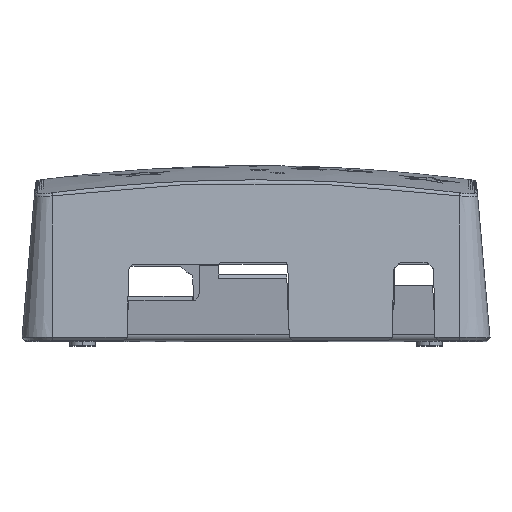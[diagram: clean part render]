
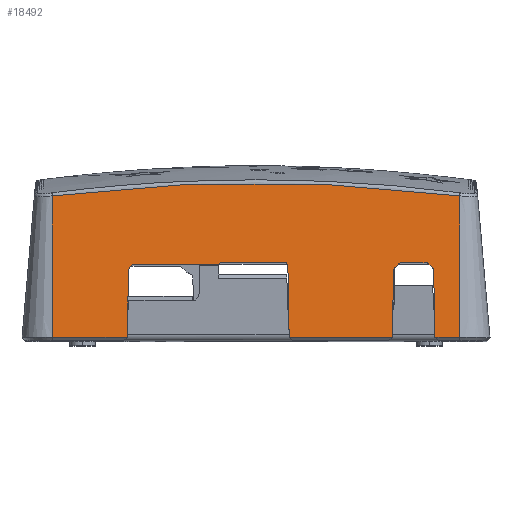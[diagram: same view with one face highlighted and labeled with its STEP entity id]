
A CAD part, top view. The second image highlights one B-rep face of the part: STEP entity #18492.
In plain terms, the highlighted planar face has unit normal (0, 0.087, 0.996).
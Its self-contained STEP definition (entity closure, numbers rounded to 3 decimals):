
#1996=DIRECTION('',(1.,0.,0.));
#1997=VECTOR('',#1996,13.4);
#1998=CARTESIAN_POINT('',(-7.3,0.5,49.206));
#1999=LINE('',#1998,#1997);
#2041=CARTESIAN_POINT('',(-27.6,-1.492,
49.381));
#2042=CARTESIAN_POINT('',(-27.591,-0.969,
49.335));
#2043=CARTESIAN_POINT('',(-27.186,-0.314,
49.277));
#2044=CARTESIAN_POINT('',(-26.525,0.08,49.243));
#2045=CARTESIAN_POINT('',(-26.,0.08,49.243));
#2055=DIRECTION('',(-0.017,-0.996,0.087));
#2056=VECTOR('',#2055,14.405);
#2057=CARTESIAN_POINT('',(29.75,-1.403,49.373));
#2058=LINE('',#2057,#2056);
#2059=DIRECTION('',(-1.,0.,0.));
#2060=VECTOR('',#2059,17.996);
#2061=CARTESIAN_POINT('',(-8.004,0.08,
49.243));
#2062=LINE('',#2061,#2060);
#2063=DIRECTION('',(-0.017,-0.996,0.087));
#2064=VECTOR('',#2063,14.316);
#2065=CARTESIAN_POINT('',(-27.6,-1.492,
49.381));
#2066=LINE('',#2065,#2064);
#2067=CARTESIAN_POINT('',(0.,-327.249,77.881));
#2068=DIRECTION('',(0.,-0.087,-0.996));
#2069=DIRECTION('',(-0.127,0.988,-0.086));
#2070=AXIS2_PLACEMENT_3D('',#2067,#2068,#2069);
#2072=DIRECTION('',(1.,0.,0.));
#2073=VECTOR('',#2072,5.374);
#2074=CARTESIAN_POINT('',(38.701,-15.751,50.629));
#2075=LINE('',#2074,#2073);
#2149=DIRECTION('',(0.017,-0.996,0.087));
#2150=VECTOR('',#2149,14.403);
#2151=CARTESIAN_POINT('',(38.45,-1.405,49.373));
#2152=LINE('',#2151,#2150);
#2161=CARTESIAN_POINT('',(38.099,-0.576,
49.3));
#2162=CARTESIAN_POINT('',(38.173,-0.65,
49.307));
#2163=CARTESIAN_POINT('',(38.297,-0.811,
49.321));
#2164=CARTESIAN_POINT('',(38.419,-1.101,49.346));
#2165=CARTESIAN_POINT('',(38.448,-1.301,49.364));
#2166=CARTESIAN_POINT('',(38.45,-1.405,49.373));
#2168=DIRECTION('',(0.706,-0.706,0.062));
#2169=VECTOR('',#2168,0.955);
#2170=CARTESIAN_POINT('',(37.424,0.099,49.241));
#2171=LINE('',#2170,#2169);
#2180=CARTESIAN_POINT('',(36.576,0.45,49.211));
#2181=CARTESIAN_POINT('',(36.907,0.45,49.211));
#2182=CARTESIAN_POINT('',(37.19,0.333,49.221));
#2183=CARTESIAN_POINT('',(37.424,0.099,49.241));
#2185=DIRECTION('',(1.,0.,0.));
#2186=VECTOR('',#2185,4.951);
#2187=CARTESIAN_POINT('',(31.624,0.45,49.211));
#2188=LINE('',#2187,#2186);
#2197=CARTESIAN_POINT('',(30.776,0.099,49.241));
#2198=CARTESIAN_POINT('',(31.01,0.333,49.221));
#2199=CARTESIAN_POINT('',(31.293,0.45,49.211));
#2200=CARTESIAN_POINT('',(31.624,0.45,49.211));
#2202=DIRECTION('',(0.706,0.706,-0.062));
#2203=VECTOR('',#2202,0.955);
#2204=CARTESIAN_POINT('',(30.101,-0.576,
49.3));
#2205=LINE('',#2204,#2203);
#2210=CARTESIAN_POINT('',(29.75,-1.403,49.373));
#2211=CARTESIAN_POINT('',(29.756,-1.08,49.345));
#2212=CARTESIAN_POINT('',(29.873,-0.805,
49.32));
#2213=CARTESIAN_POINT('',(30.101,-0.576,
49.3));
#2227=DIRECTION('',(1.,0.,0.));
#2228=VECTOR('',#2227,22.329);
#2229=CARTESIAN_POINT('',(7.17,-15.751,50.629));
#2230=LINE('',#2229,#2228);
#2263=DIRECTION('',(0.017,-0.996,0.087));
#2264=VECTOR('',#2263,15.524);
#2265=CARTESIAN_POINT('',(6.9,-0.288,
49.275));
#2266=LINE('',#2265,#2264);
#2284=CARTESIAN_POINT('',(6.1,0.5,49.206));
#2285=CARTESIAN_POINT('',(6.184,0.5,49.206));
#2286=CARTESIAN_POINT('',(6.344,0.475,49.208));
#2287=CARTESIAN_POINT('',(6.57,0.364,49.218));
#2288=CARTESIAN_POINT('',(6.754,0.184,49.234));
#2289=CARTESIAN_POINT('',(6.871,-0.044,
49.254));
#2290=CARTESIAN_POINT('',(6.899,-0.204,
49.268));
#2291=CARTESIAN_POINT('',(6.9,-0.288,
49.275));
#12477=DIRECTION('',(0.,0.996,-0.087));
#12478=VECTOR('',#12477,30.759);
#12479=CARTESIAN_POINT('',(44.075,-15.753,
50.628));
#12480=LINE('',#12479,#12478);
#12521=DIRECTION('',(0.,-0.996,0.087));
#12522=VECTOR('',#12521,30.758);
#12523=CARTESIAN_POINT('',(-44.075,14.889,
47.947));
#12524=LINE('',#12523,#12522);
#12859=DIRECTION('',(1.,0.,0.));
#12860=VECTOR('',#12859,16.226);
#12861=CARTESIAN_POINT('',(-44.075,-15.753,
50.628));
#12862=LINE('',#12861,#12860);
#14547=CARTESIAN_POINT('',(-8.004,0.08,
49.243));
#14548=CARTESIAN_POINT('',(-7.853,0.36,
49.219));
#14549=CARTESIAN_POINT('',(-7.619,0.5,49.206));
#14550=CARTESIAN_POINT('',(-7.3,0.5,49.206));
#15399=CARTESIAN_POINT('',(-7.3,0.5,49.206));
#15400=VERTEX_POINT('',#15399);
#15401=CARTESIAN_POINT('',(6.1,0.5,49.206));
#15402=VERTEX_POINT('',#15401);
#15409=CARTESIAN_POINT('',(-26.,0.08,49.243));
#15410=VERTEX_POINT('',#15409);
#15411=CARTESIAN_POINT('',(-8.004,0.08,
49.243));
#15412=VERTEX_POINT('',#15411);
#15413=VERTEX_POINT('',#2041);
#15414=CARTESIAN_POINT('',(38.701,-15.751,
50.629));
#15415=CARTESIAN_POINT('',(44.075,-15.753,
50.628));
#15416=VERTEX_POINT('',#15414);
#15417=VERTEX_POINT('',#15415);
#15418=CARTESIAN_POINT('',(38.45,-1.405,
49.373));
#15419=VERTEX_POINT('',#15418);
#15420=VERTEX_POINT('',#2161);
#15421=CARTESIAN_POINT('',(37.424,0.099,
49.241));
#15422=VERTEX_POINT('',#15421);
#15423=VERTEX_POINT('',#2180);
#15424=CARTESIAN_POINT('',(31.624,0.45,
49.211));
#15425=VERTEX_POINT('',#15424);
#15426=VERTEX_POINT('',#2197);
#15427=CARTESIAN_POINT('',(30.101,-0.576,
49.3));
#15428=VERTEX_POINT('',#15427);
#15429=VERTEX_POINT('',#2210);
#15430=CARTESIAN_POINT('',(29.499,-15.751,
50.629));
#15431=VERTEX_POINT('',#15430);
#15432=CARTESIAN_POINT('',(7.17,-15.751,
50.629));
#15433=VERTEX_POINT('',#15432);
#15434=CARTESIAN_POINT('',(6.9,-0.288,
49.275));
#15435=VERTEX_POINT('',#15434);
#15436=CARTESIAN_POINT('',(-27.849,-15.752,
50.629));
#15437=VERTEX_POINT('',#15436);
#15438=CARTESIAN_POINT('',(-44.075,-15.753,
50.628));
#15439=VERTEX_POINT('',#15438);
#15440=CARTESIAN_POINT('',(-44.075,14.889,
47.947));
#15441=VERTEX_POINT('',#15440);
#15442=CARTESIAN_POINT('',(44.075,14.889,47.947));
#15443=VERTEX_POINT('',#15442);
#18444=CARTESIAN_POINT('',(-47.411,0.,49.25));
#18445=DIRECTION('',(0.,0.087,0.996));
#18446=DIRECTION('',(1.,0.,0.));
#18447=AXIS2_PLACEMENT_3D('',#18444,#18445,#18446);
#18448=PLANE('',#18447);
#18450=ORIENTED_EDGE('',*,*,#18449,.F.);
#18452=ORIENTED_EDGE('',*,*,#18451,.F.);
#18454=ORIENTED_EDGE('',*,*,#18453,.F.);
#18456=ORIENTED_EDGE('',*,*,#18455,.F.);
#18458=ORIENTED_EDGE('',*,*,#18457,.F.);
#18460=ORIENTED_EDGE('',*,*,#18459,.F.);
#18462=ORIENTED_EDGE('',*,*,#18461,.F.);
#18464=ORIENTED_EDGE('',*,*,#18463,.F.);
#18466=ORIENTED_EDGE('',*,*,#18465,.F.);
#18468=ORIENTED_EDGE('',*,*,#18467,.T.);
#18470=ORIENTED_EDGE('',*,*,#18469,.F.);
#18472=ORIENTED_EDGE('',*,*,#18471,.F.);
#18474=ORIENTED_EDGE('',*,*,#18473,.F.);
#18475=ORIENTED_EDGE('',*,*,#18361,.F.);
#18477=ORIENTED_EDGE('',*,*,#18476,.F.);
#18478=ORIENTED_EDGE('',*,*,#18423,.T.);
#18479=ORIENTED_EDGE('',*,*,#18435,.F.);
#18481=ORIENTED_EDGE('',*,*,#18480,.T.);
#18483=ORIENTED_EDGE('',*,*,#18482,.F.);
#18485=ORIENTED_EDGE('',*,*,#18484,.F.);
#18487=ORIENTED_EDGE('',*,*,#18486,.T.);
#18489=ORIENTED_EDGE('',*,*,#18488,.F.);
#18490=EDGE_LOOP('',(#18450,#18452,#18454,#18456,#18458,#18460,#18462,#18464,
#18466,#18468,#18470,#18472,#18474,#18475,#18477,#18478,#18479,#18481,#18483,
#18485,#18487,#18489));
#18491=FACE_OUTER_BOUND('',#18490,.F.);
#2046=B_SPLINE_CURVE_WITH_KNOTS('',3,(#2041,#2042,#2043,#2044,#2045),
.UNSPECIFIED.,.F.,.F.,(4,1,4),(0.,0.5,1.),.UNSPECIFIED.);
#2071=CIRCLE('',#2070,346.261);
#2167=B_SPLINE_CURVE_WITH_KNOTS('',3,(#2161,#2162,#2163,#2164,#2165,#2166),
.UNSPECIFIED.,.F.,.F.,(4,1,1,4),(0.,0.333,0.667,1.),
.UNSPECIFIED.);
#2184=B_SPLINE_CURVE_WITH_KNOTS('',3,(#2180,#2181,#2182,#2183),.UNSPECIFIED.,
.F.,.F.,(4,4),(0.,1.),.UNSPECIFIED.);
#2201=B_SPLINE_CURVE_WITH_KNOTS('',3,(#2197,#2198,#2199,#2200),.UNSPECIFIED.,
.F.,.F.,(4,4),(0.,1.),.UNSPECIFIED.);
#2214=B_SPLINE_CURVE_WITH_KNOTS('',3,(#2210,#2211,#2212,#2213),.UNSPECIFIED.,
.F.,.F.,(4,4),(0.,1.),.UNSPECIFIED.);
#2292=B_SPLINE_CURVE_WITH_KNOTS('',3,(#2284,#2285,#2286,#2287,#2288,#2289,#2290,
#2291),.UNSPECIFIED.,.F.,.F.,(4,1,1,1,1,4),(0.,0.2,0.4,0.6,0.8,1.),
.UNSPECIFIED.);
#14551=B_SPLINE_CURVE_WITH_KNOTS('',3,(#14547,#14548,#14549,#14550),
.UNSPECIFIED.,.F.,.F.,(4,4),(0.,1.),.UNSPECIFIED.);
#18361=EDGE_CURVE('',#15400,#15402,#1999,.T.);
#18423=EDGE_CURVE('',#15412,#15410,#2062,.T.);
#18435=EDGE_CURVE('',#15413,#15410,#2046,.T.);
#18449=EDGE_CURVE('',#15416,#15417,#2075,.T.);
#18451=EDGE_CURVE('',#15419,#15416,#2152,.T.);
#18453=EDGE_CURVE('',#15420,#15419,#2167,.T.);
#18455=EDGE_CURVE('',#15422,#15420,#2171,.T.);
#18457=EDGE_CURVE('',#15423,#15422,#2184,.T.);
#18459=EDGE_CURVE('',#15425,#15423,#2188,.T.);
#18461=EDGE_CURVE('',#15426,#15425,#2201,.T.);
#18463=EDGE_CURVE('',#15428,#15426,#2205,.T.);
#18465=EDGE_CURVE('',#15429,#15428,#2214,.T.);
#18467=EDGE_CURVE('',#15429,#15431,#2058,.T.);
#18469=EDGE_CURVE('',#15433,#15431,#2230,.T.);
#18471=EDGE_CURVE('',#15435,#15433,#2266,.T.);
#18473=EDGE_CURVE('',#15402,#15435,#2292,.T.);
#18476=EDGE_CURVE('',#15412,#15400,#14551,.T.);
#18480=EDGE_CURVE('',#15413,#15437,#2066,.T.);
#18482=EDGE_CURVE('',#15439,#15437,#12862,.T.);
#18484=EDGE_CURVE('',#15441,#15439,#12524,.T.);
#18486=EDGE_CURVE('',#15441,#15443,#2071,.T.);
#18488=EDGE_CURVE('',#15417,#15443,#12480,.T.);
#18492=ADVANCED_FACE('',(#18491),#18448,.T.);
